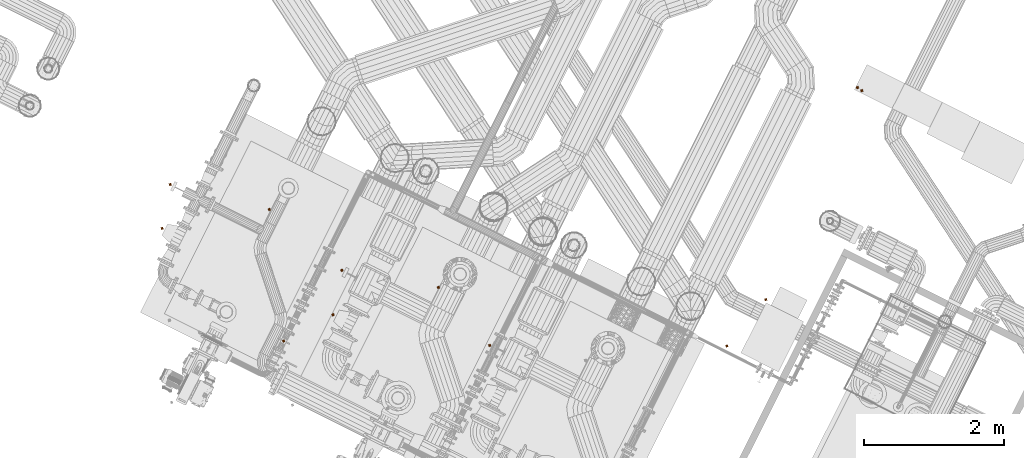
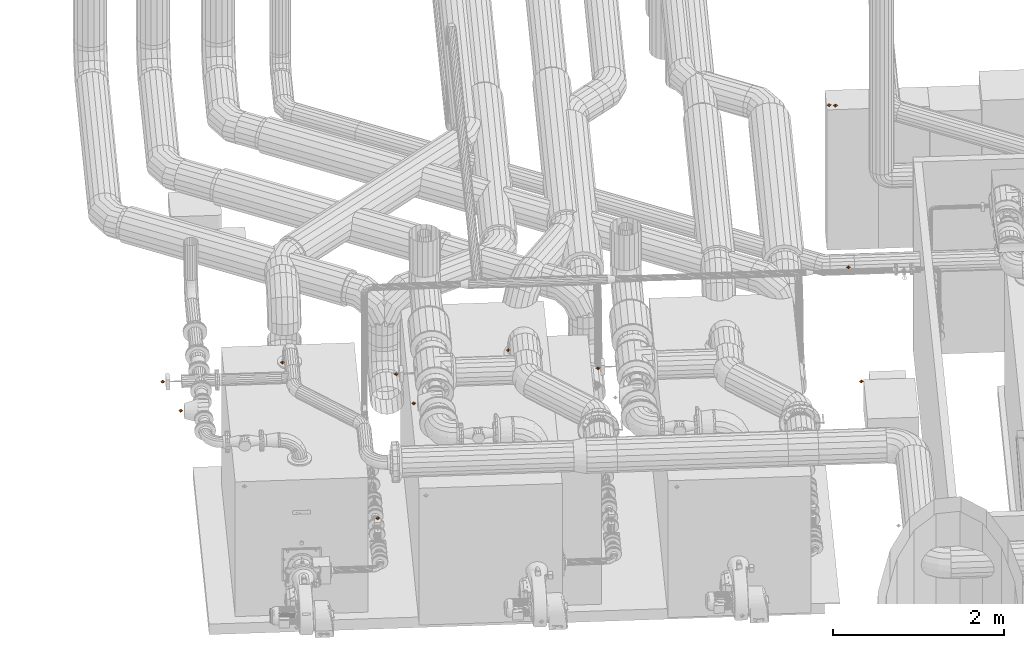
# One storey, part 205 of 206: 12 proxies.
"""IFC2X3 building model written with IfcOpenShell, lengths in metres."""

from ifc_helpers import new_model, si_unit, derived_unit, direction, frame, origin, place, context, subcontext, project, spatial, faceted_brep, type_object, element, save


model = new_model("IFC2X3")

# Units and contexts
model_context = context("Model", 3, precision=5.2338327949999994e-05, world=origin(), true_north=direction((0.0, 1.0)))
body_context = subcontext(model_context, "Body", "Model", "MODEL_VIEW")
ifc_project = project(units=[si_unit("LENGTHUNIT", "METRE"), si_unit("AREAUNIT", "SQUARE_METRE"), si_unit("VOLUMEUNIT", "CUBIC_METRE"), si_unit("MASSUNIT", "GRAM", prefix="KILO"), si_unit("PLANEANGLEUNIT", "RADIAN"), derived_unit("THERMALTRANSMITTANCEUNIT", [(si_unit("MASSUNIT", "GRAM", prefix="KILO"), 1), (si_unit("THERMODYNAMICTEMPERATUREUNIT", "KELVIN"), -1), (si_unit("TIMEUNIT", "SECOND"), -3)])], contexts=[model_context])

# Site, building, storey
site_placement = place(None, frame((0.0, 0.0, 0.0), z_axis=(0.0, 0.0, 1.0), x_axis=(0.8939966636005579, -0.4480736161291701, 0.0)))
site = spatial("IfcSite", under=ifc_project, at=site_placement, Name="Default", CompositionType="ELEMENT")
building_placement = place(site_placement, origin())
building = spatial("IfcBuilding", under=site, at=building_placement, CompositionType="ELEMENT")
storey_placement = place(building_placement, origin())
storey = spatial("IfcBuildingStorey", under=building, at=storey_placement, Name="Erdgeschoss", CompositionType="ELEMENT", Elevation=0.0)

# Proxies
building_element_proxy_type = type_object("IfcBuildingElementProxyType", Name="DirectShape:Gebäudeautomation", PredefinedType="NOTDEFINED")
proxy_1_placement = place(storey_placement, origin())
element("IfcBuildingElementProxy", 1, at=proxy_1_placement, inside=storey, type_object=building_element_proxy_type, Name="DirectShape:Heizkessel 1 Vorlauffühler", context=body_context, shape_type="Brep", body=[
    faceted_brep([(21.334948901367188, 6.9743644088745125, 2.326325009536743), (21.309950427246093, 6.9743644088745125, 2.351325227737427), (21.334948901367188, 6.999364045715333, 2.351325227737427), (21.334948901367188, 6.949364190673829, 2.351325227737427), (21.359949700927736, 6.9743644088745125, 2.351325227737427), (21.334948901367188, 6.9743644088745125, 2.376325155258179)], [[[0, 1, 2]], [[0, 3, 1]], [[0, 4, 3]], [[0, 2, 4]], [[5, 2, 1]], [[5, 1, 3]], [[5, 3, 4]], [[5, 4, 2]]]),
])
proxy_2_placement = place(storey_placement, origin())
element("IfcBuildingElementProxy", 2, at=proxy_2_placement, inside=storey, type_object=building_element_proxy_type, Name="DirectShape:Heizkessel 1 Gasmengenzähler", context=body_context, shape_type="Brep", body=[
    faceted_brep([(22.35577728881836, 5.3924696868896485, 1.17087780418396), (22.330776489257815, 5.3924696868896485, 1.195877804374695), (22.35577728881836, 5.417469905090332, 1.195877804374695), (22.35577728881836, 5.367469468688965, 1.195877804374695), (22.380778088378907, 5.3924696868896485, 1.195877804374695), (22.35577728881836, 5.3924696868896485, 1.2208779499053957)], [[[0, 1, 2]], [[0, 3, 1]], [[0, 4, 3]], [[0, 2, 4]], [[5, 2, 1]], [[5, 1, 3]], [[5, 3, 4]], [[5, 4, 2]]]),
])
proxy_3_placement = place(storey_placement, origin())
element("IfcBuildingElementProxy", 3, at=proxy_3_placement, inside=storey, type_object=building_element_proxy_type, Name="DirectShape:Heizkessel 1 Pumpe", context=body_context, shape_type="Brep", body=[
    faceted_brep([(20.090729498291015, 6.050806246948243, 2.336367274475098), (20.06572869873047, 6.050806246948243, 2.3613673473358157), (20.090729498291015, 6.0758064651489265, 2.3613673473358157), (20.090729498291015, 6.025806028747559, 2.3613673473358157), (20.11572797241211, 6.050806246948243, 2.3613673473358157), (20.090729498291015, 6.050806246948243, 2.3863672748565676)], [[[0, 1, 2]], [[0, 3, 1]], [[0, 4, 3]], [[0, 2, 4]], [[5, 2, 1]], [[5, 1, 3]], [[5, 3, 4]], [[5, 4, 2]]]),
])
proxy_4_placement = place(storey_placement, origin())
element("IfcBuildingElementProxy", 4, at=proxy_4_placement, inside=storey, type_object=building_element_proxy_type, Name="DirectShape:Heizkessel 1 Regelventil", context=body_context, shape_type="Brep", body=[
    faceted_brep([(19.915103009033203, 6.660570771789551, 2.3313494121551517), (19.890104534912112, 6.660570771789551, 2.356349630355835), (19.915103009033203, 6.6855704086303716, 2.356349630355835), (19.915103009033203, 6.635570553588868, 2.356349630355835), (19.94010380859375, 6.660570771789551, 2.356349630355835), (19.915103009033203, 6.660570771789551, 2.381349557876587)], [[[0, 1, 2]], [[0, 3, 1]], [[0, 4, 3]], [[0, 2, 4]], [[5, 2, 1]], [[5, 1, 3]], [[5, 3, 4]], [[5, 4, 2]]]),
])
proxy_5_placement = place(storey_placement, origin())
element("IfcBuildingElementProxy", 5, at=proxy_5_placement, inside=storey, type_object=building_element_proxy_type, Name="DirectShape:Heizkessel 2 Vorlauffühler", context=body_context, shape_type="Brep", body=[
    faceted_brep([(23.982484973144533, 7.061013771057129, 2.3327592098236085), (23.957484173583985, 7.061013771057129, 2.3577592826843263), (23.982484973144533, 7.086013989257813, 2.3577592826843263), (23.982484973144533, 7.036014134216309, 2.3577592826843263), (24.007483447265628, 7.061013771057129, 2.3577592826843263), (23.982484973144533, 7.061013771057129, 2.3827592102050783)], [[[0, 1, 2]], [[0, 3, 1]], [[0, 4, 3]], [[0, 2, 4]], [[5, 2, 1]], [[5, 1, 3]], [[5, 3, 4]], [[5, 4, 2]]]),
])
proxy_6_placement = place(storey_placement, origin())
element("IfcBuildingElementProxy", 6, at=proxy_6_placement, inside=storey, type_object=building_element_proxy_type, Name="DirectShape:Heizkessel 2 Pumpe", context=body_context, shape_type="Brep", body=[
    faceted_brep([(22.8154259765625, 6.04127020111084, 2.335579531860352), (22.790425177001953, 6.04127020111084, 2.3605796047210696), (22.8154259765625, 6.0662704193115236, 2.3605796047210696), (22.8154259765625, 6.016269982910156, 2.3605796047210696), (22.840424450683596, 6.04127020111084, 2.3605796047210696), (22.8154259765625, 6.04127020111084, 2.3855795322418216)], [[[0, 1, 2]], [[0, 3, 1]], [[0, 4, 3]], [[0, 2, 4]], [[5, 2, 1]], [[5, 1, 3]], [[5, 3, 4]], [[5, 4, 2]]]),
])
proxy_7_placement = place(storey_placement, origin())
element("IfcBuildingElementProxy", 7, at=proxy_7_placement, inside=storey, type_object=building_element_proxy_type, Name="DirectShape:Heizkessel 2 Regelventil", context=body_context, shape_type="Brep", body=[
    faceted_brep([(22.645945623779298, 6.663413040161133, 2.325581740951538), (22.62094482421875, 6.663413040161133, 2.350581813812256), (22.645945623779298, 6.688412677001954, 2.350581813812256), (22.645945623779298, 6.63841282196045, 2.350581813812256), (22.670944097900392, 6.663413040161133, 2.350581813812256), (22.645945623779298, 6.663413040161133, 2.375581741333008)], [[[0, 1, 2]], [[0, 3, 1]], [[0, 4, 3]], [[0, 2, 4]], [[5, 2, 1]], [[5, 1, 3]], [[5, 3, 4]], [[5, 4, 2]]]),
])
proxy_8_placement = place(storey_placement, origin())
element("IfcBuildingElementProxy", 8, at=proxy_8_placement, inside=storey, type_object=building_element_proxy_type, Name="DirectShape:Heizkessel 3 Regelventil", context=body_context, shape_type="Brep", body=[
    faceted_brep([(25.0069201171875, 6.650857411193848, 2.321021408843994), (24.981921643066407, 6.650857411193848, 2.346021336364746), (25.0069201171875, 6.675857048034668, 2.346021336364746), (25.0069201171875, 6.6258571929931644, 2.346021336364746), (25.03192091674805, 6.650857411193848, 2.346021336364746), (25.0069201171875, 6.650857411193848, 2.371021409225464)], [[[0, 1, 2]], [[0, 3, 1]], [[0, 4, 3]], [[0, 2, 4]], [[5, 2, 1]], [[5, 1, 3]], [[5, 3, 4]], [[5, 4, 2]]]),
])
proxy_9_placement = place(storey_placement, origin())
element("IfcBuildingElementProxy", 9, at=proxy_9_placement, inside=storey, type_object=building_element_proxy_type, Name="DirectShape:Blockheizkreaftwerk Gasmengenzähler", context=body_context, shape_type="Brep", body=[
    faceted_brep([(28.027268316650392, 8.15589984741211, 2.5818272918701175), (28.002269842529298, 8.15589984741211, 2.6068272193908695), (28.027268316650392, 8.180900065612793, 2.6068272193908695), (28.027268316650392, 8.130899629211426, 2.6068272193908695), (28.05226911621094, 8.15589984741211, 2.6068272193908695), (28.027268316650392, 8.15589984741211, 2.6318274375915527)], [[[0, 1, 2]], [[0, 3, 1]], [[0, 4, 3]], [[0, 2, 4]], [[5, 2, 1]], [[5, 1, 3]], [[5, 3, 4]], [[5, 4, 2]]]),
])
proxy_10_placement = place(storey_placement, origin())
element("IfcBuildingElementProxy", 10, at=proxy_10_placement, inside=storey, type_object=building_element_proxy_type, Name="DirectShape:Blockheizkreaftwerk", context=body_context, shape_type="Brep", body=[
    faceted_brep([(28.042251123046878, 12.27702853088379, 2.0123276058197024), (28.01725032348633, 12.27702853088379, 2.0373275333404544), (28.042251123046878, 12.302029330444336, 2.0373275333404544), (28.042251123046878, 12.252028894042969, 2.0373275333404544), (28.067251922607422, 12.27702853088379, 2.0373275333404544), (28.042251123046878, 12.27702853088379, 2.062327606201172)], [[[0, 1, 2]], [[0, 3, 1]], [[0, 4, 3]], [[0, 2, 4]], [[5, 2, 1]], [[5, 1, 3]], [[5, 3, 4]], [[5, 4, 2]]]),
])
proxy_11_placement = place(storey_placement, origin())
element("IfcBuildingElementProxy", 11, at=proxy_11_placement, inside=storey, type_object=building_element_proxy_type, Name="DirectShape:Blockheizkreaftwerk Gaswarngerät", context=body_context, shape_type="Brep", body=[
    faceted_brep([(28.117251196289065, 12.266041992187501, 2.0116430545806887), (28.092250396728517, 12.266041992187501, 2.0366429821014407), (28.117251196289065, 12.29104162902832, 2.0366429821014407), (28.117251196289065, 12.241041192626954, 2.0366429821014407), (28.142251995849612, 12.266041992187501, 2.0366429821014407), (28.117251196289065, 12.266041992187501, 2.0616430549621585)], [[[0, 1, 2]], [[0, 3, 1]], [[0, 4, 3]], [[0, 2, 4]], [[5, 2, 1]], [[5, 1, 3]], [[5, 3, 4]], [[5, 4, 2]]]),
])
proxy_12_placement = place(storey_placement, origin())
element("IfcBuildingElementProxy", 12, at=proxy_12_placement, inside=storey, type_object=building_element_proxy_type, Name="DirectShape:Blockheizkreaftwerk Neutralisation", context=body_context, shape_type="Brep", body=[
    faceted_brep([(28.226186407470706, 8.994388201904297, 0.3615372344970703), (28.20118560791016, 8.994388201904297, 0.3865372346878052), (28.226186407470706, 9.019388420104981, 0.3865372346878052), (28.226186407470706, 8.969387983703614, 0.3865372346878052), (28.25118720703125, 8.994388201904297, 0.3865372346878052), (28.226186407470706, 8.994388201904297, 0.41153723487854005)], [[[0, 1, 2]], [[0, 3, 1]], [[0, 4, 3]], [[0, 2, 4]], [[5, 2, 1]], [[5, 1, 3]], [[5, 3, 4]], [[5, 4, 2]]]),
])

save(model, "model.ifc")
